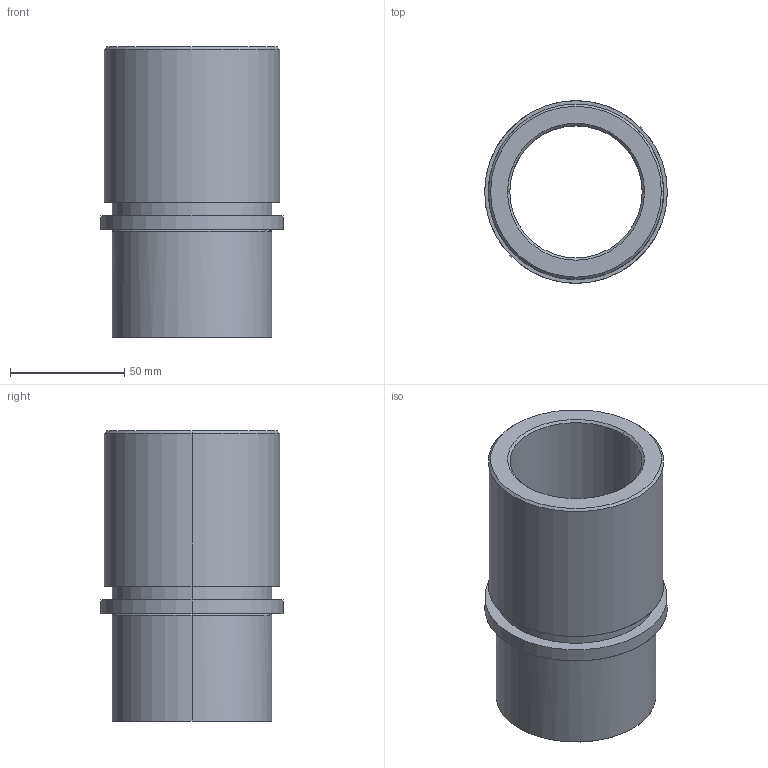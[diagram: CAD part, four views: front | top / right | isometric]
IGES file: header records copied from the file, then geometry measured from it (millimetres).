
Start section: START RECORD GO HERE.
Global section: file name: 733-50.igs; native system: DASSAULT SYSTEMES CATIA V5 R20 - www.3ds.com; preprocessor: CATIA Version 5 Release 20 ; author: Utente; organization: NB04-ASUS; date: 20210111.183101; units: millimetre
Bounding box: 80 x 80 x 127 mm (x, y, z)
Surface area: 59048.9 mm2 (no closed solid volume)
Topology: 0 solids, 0 shells, 25 faces, 100 edges, 100 vertices
Faces by surface type: revolution 20, plane 5
